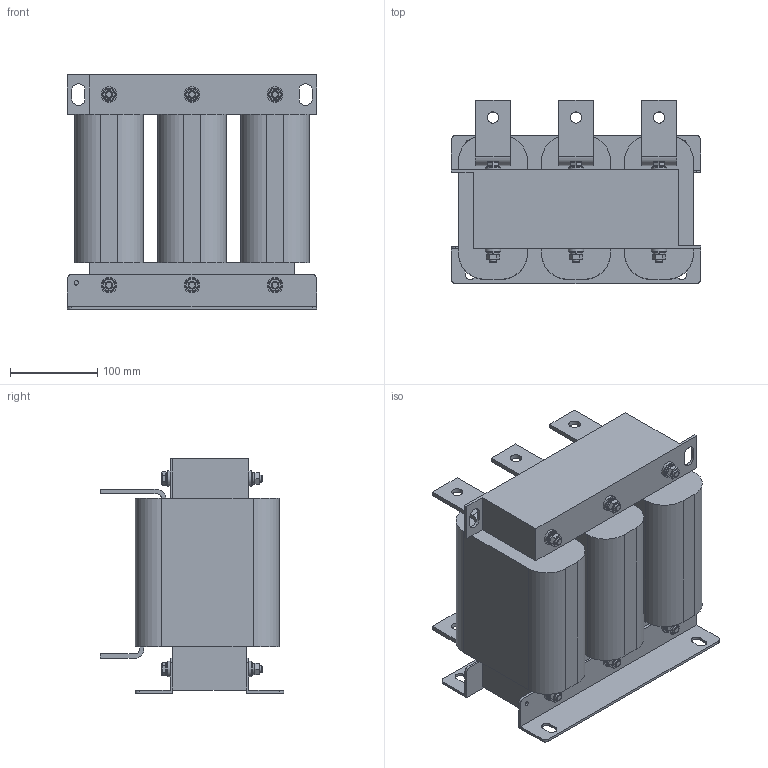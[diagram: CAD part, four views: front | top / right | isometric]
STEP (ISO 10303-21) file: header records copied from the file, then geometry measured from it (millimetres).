
FILE_DESCRIPTION(('STEP AP203'), '1');
FILE_NAME('栖闉罻 _ ISF-250_484-4', '', ('UNSPECIFIED'), ('UNSPECIFIED'), 'ASCON STEP Converter 1.6', 'ASCON Math Kernel', '');
FILE_SCHEMA(('CONFIG_CONTROL_DESIGN'));
Length unit declared in the file: millimetre
Products named in the file (12): ISF-250_484-4
Assembly tree (55 placements, depth 2):
  ISF-250_484-4
    ISF-250_484-4
    ISF-250_484-4  x2
    ISF-250_484-4  x3
    ISF-250_484-4
    ISF-250_484-4  x3
    ISF-250_484-4  x3
    ISF-250_484-4  x12
    ISF-250_484-4  x12
    ISF-250_484-4  x6
    ISF-250_484-4  x6
    ISF-250_484-4  x6
Bounding box: 285 x 210 x 268 mm (x, y, z)
Volume: 8430507.9 mm3; surface area: 623927.1 mm2
Topology: 55 solids, 55 shells, 576 faces, 1218 edges, 758 vertices
Faces by surface type: plane 422, cylinder 124, cone 18, torus 12
Full cylindrical faces by diameter (mm): 5 x2, 8 x48, 13 x6, 15 x12, 18 x12
Entity records: 6106 total; most frequent: CARTESIAN_POINT 1036, DIRECTION 794, ORIENTED_EDGE 630, EDGE_CURVE 315, AXIS2_PLACEMENT_3D 283, LINE 228, VECTOR 228, VERTEX_POINT 215
